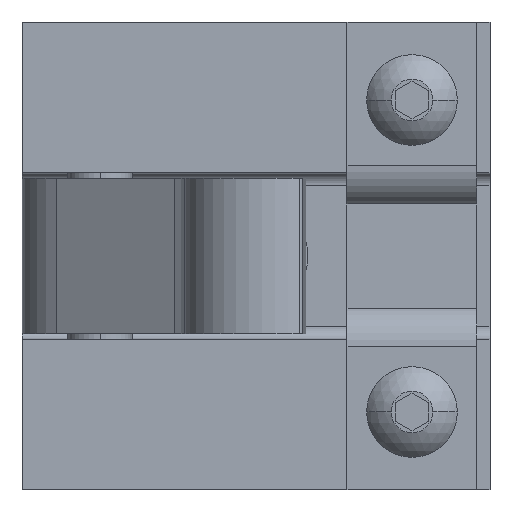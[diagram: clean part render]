
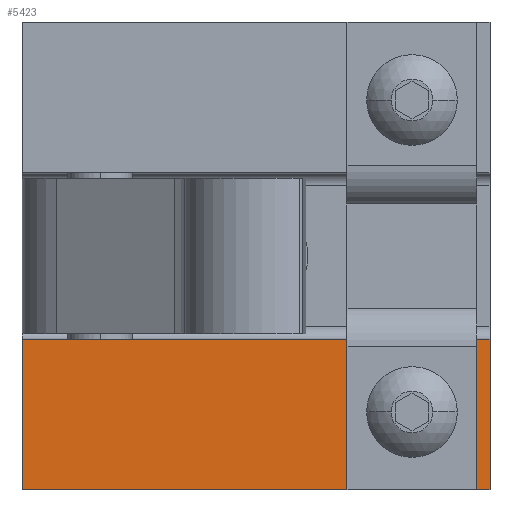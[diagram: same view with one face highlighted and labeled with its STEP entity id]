
A CAD part, left-side view. The second image highlights one B-rep face of the part: STEP entity #5423.
In plain terms, the highlighted planar face has unit normal (-1, 0, 0).
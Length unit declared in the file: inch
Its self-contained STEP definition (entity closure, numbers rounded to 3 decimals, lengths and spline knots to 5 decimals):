
#5417 = EDGE_LOOP ( 'NONE', ( #8171, #8169 ) ) ;
#5423 = ADVANCED_FACE ( 'NONE', ( #17791, #17790 ), #17750, .T. ) ;
#5782 = CARTESIAN_POINT ( 'NONE',  ( 7.43951, 3.75404, -1.525 ) ) ;
#5783 = DIRECTION ( 'NONE',  ( 0., -1., 0. ) ) ;
#5784 = VECTOR ( 'NONE', #5783, 39.37008 ) ;
#5785 = CARTESIAN_POINT ( 'NONE',  ( 7.43951, 3.75404, -1.525 ) ) ;
#5786 = LINE ( 'NONE', #5785, #5784 ) ;
#5792 = DIRECTION ( 'NONE',  ( 0., -1., 0. ) ) ;
#5793 = VECTOR ( 'NONE', #5792, 39.37008 ) ;
#5794 = CARTESIAN_POINT ( 'NONE',  ( 7.43951, 3.75404, -2.25 ) ) ;
#5795 = LINE ( 'NONE', #5794, #5793 ) ;
#5796 = CARTESIAN_POINT ( 'NONE',  ( 7.43951, 3.75404, -2.25 ) ) ;
#5797 = DIRECTION ( 'NONE',  ( 0., 0., 1. ) ) ;
#5813 = VECTOR ( 'NONE', #5797, 39.37008 ) ;
#5814 = CARTESIAN_POINT ( 'NONE',  ( 7.43951, 3.75404, -2.25 ) ) ;
#5815 = LINE ( 'NONE', #5814, #5813 ) ;
#5845 = DIRECTION ( 'NONE',  ( 0., 0., 1. ) ) ;
#5846 = DIRECTION ( 'NONE',  ( -1., 0., 0. ) ) ;
#5847 = CARTESIAN_POINT ( 'NONE',  ( 7.43951, 4.12904, -1.875 ) ) ;
#5848 = AXIS2_PLACEMENT_3D ( 'NONE', #5847, #5846, #5845 ) ;
#5849 = CIRCLE ( 'NONE', #5848, 0.125 ) ;
#6585 = CARTESIAN_POINT ( 'NONE',  ( 7.43951, 4.12904, -2. ) ) ;
#6704 = CARTESIAN_POINT ( 'NONE',  ( 7.43951, 4.12904, -1.75 ) ) ;
#6705 = DIRECTION ( 'NONE',  ( 0., 0., 1. ) ) ;
#6706 = DIRECTION ( 'NONE',  ( -1., 0., 0. ) ) ;
#6707 = CARTESIAN_POINT ( 'NONE',  ( 7.43951, 4.12904, -1.875 ) ) ;
#6708 = AXIS2_PLACEMENT_3D ( 'NONE', #6707, #6706, #6705 ) ;
#6709 = CIRCLE ( 'NONE', #6708, 0.125 ) ;
#6865 = CARTESIAN_POINT ( 'NONE',  ( 7.43951, 6.00404, -1.525 ) ) ;
#6935 = CARTESIAN_POINT ( 'NONE',  ( 7.43951, 6.00404, -2.25 ) ) ;
#7032 = DIRECTION ( 'NONE',  ( 0., 0., 1. ) ) ;
#7033 = VECTOR ( 'NONE', #7032, 39.37008 ) ;
#7034 = CARTESIAN_POINT ( 'NONE',  ( 7.43951, 6.00404, -2.25 ) ) ;
#7035 = LINE ( 'NONE', #7034, #7033 ) ;
#8159 = EDGE_CURVE ( 'NONE', #8160, #8173, #5815, .T. ) ;
#8160 = VERTEX_POINT ( 'NONE', #5796 ) ;
#8161 = ORIENTED_EDGE ( 'NONE', *, *, #8159, .T. ) ;
#8162 = EDGE_CURVE ( 'NONE', #17338, #8160, #5795, .T. ) ;
#8163 = ORIENTED_EDGE ( 'NONE', *, *, #8162, .T. ) ;
#8164 = ORIENTED_EDGE ( 'NONE', *, *, #17387, .F. ) ;
#8166 = EDGE_LOOP ( 'NONE', ( #8175, #8164, #8163, #8161 ) ) ;
#8169 = ORIENTED_EDGE ( 'NONE', *, *, #17223, .F. ) ;
#8171 = ORIENTED_EDGE ( 'NONE', *, *, #8174, .F. ) ;
#8172 = EDGE_CURVE ( 'NONE', #17298, #8173, #5786, .T. ) ;
#8173 = VERTEX_POINT ( 'NONE', #5782 ) ;
#8174 = EDGE_CURVE ( 'NONE', #17224, #17154, #5849, .T. ) ;
#8175 = ORIENTED_EDGE ( 'NONE', *, *, #8172, .F. ) ;
#17154 = VERTEX_POINT ( 'NONE', #6585 ) ;
#17223 = EDGE_CURVE ( 'NONE', #17154, #17224, #6709, .T. ) ;
#17224 = VERTEX_POINT ( 'NONE', #6704 ) ;
#17298 = VERTEX_POINT ( 'NONE', #6865 ) ;
#17338 = VERTEX_POINT ( 'NONE', #6935 ) ;
#17387 = EDGE_CURVE ( 'NONE', #17338, #17298, #7035, .T. ) ;
#17750 = PLANE ( 'NONE',  #17789 ) ;
#17774 = DIRECTION ( 'NONE',  ( 0., 0., 1. ) ) ;
#17775 = DIRECTION ( 'NONE',  ( -1., 0., 0. ) ) ;
#17788 = CARTESIAN_POINT ( 'NONE',  ( 7.43951, 3.75404, -2.25 ) ) ;
#17789 = AXIS2_PLACEMENT_3D ( 'NONE', #17788, #17775, #17774 ) ;
#17790 = FACE_OUTER_BOUND ( 'NONE', #8166, .T. ) ;
#17791 = FACE_BOUND ( 'NONE', #5417, .T. ) ;
